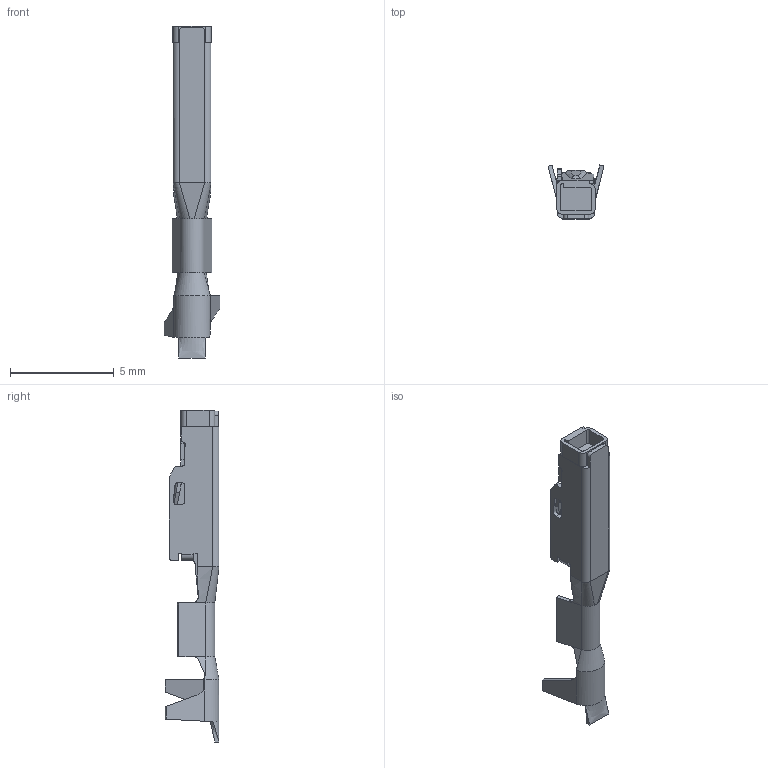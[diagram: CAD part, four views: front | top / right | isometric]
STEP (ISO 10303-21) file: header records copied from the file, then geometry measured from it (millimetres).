
FILE_DESCRIPTION((''),'2;1');
FILE_NAME('C-7-1452653-1','2014-12-19T',('workeradm'),('Tyco Electronics Ltd.'),'PRO/ENGINEER BY PARAMETRIC TECHNOLOGY CORPORATION, 2014090','PRO/ENGINEER BY PARAMETRIC TECHNOLOGY CORPORATION, 2014090','');
FILE_SCHEMA(('AUTOMOTIVE_DESIGN { 1 0 10303 214 1 1 1 1 }'));
Length unit declared in the file: millimetre
Products named in the file (1): C-7-1452653-1
Bounding box: 2.68 x 2.6 x 16 mm (x, y, z)
Volume: 27.5 mm3; surface area: 143.9 mm2
Topology: 1 solids, 1 shells, 289 faces, 805 edges, 516 vertices
Faces by surface type: plane 180, cylinder 82, bspline 27
Entity records: 13071 total; most frequent: CARTESIAN_POINT 5591, ORIENTED_EDGE 1610, DIRECTION 1404, EDGE_CURVE 805, VECTOR 576, LINE 576, VERTEX_POINT 516, AXIS2_PLACEMENT_3D 414
